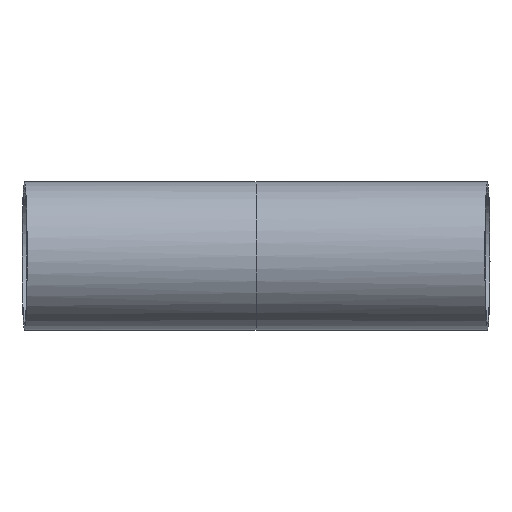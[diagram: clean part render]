
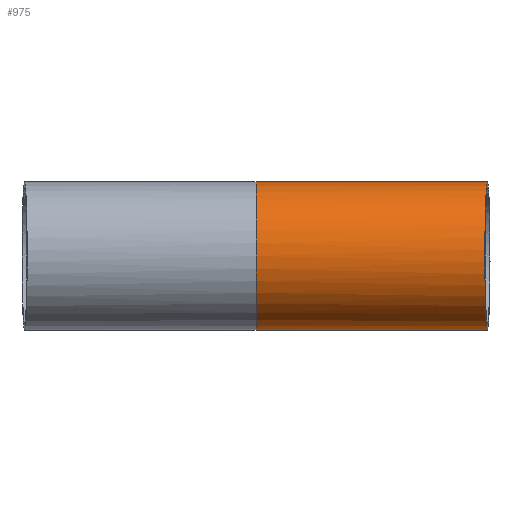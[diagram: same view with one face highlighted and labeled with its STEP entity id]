
A CAD part, front view. The second image highlights one B-rep face of the part: STEP entity #975.
In plain terms, the highlighted free-form (B-spline) face has degree [3, 1] with [4, 2] control points.
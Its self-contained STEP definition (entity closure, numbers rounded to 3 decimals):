
#12 = CARTESIAN_POINT ( 'NONE',  ( 59.299, -8.789, 17.837 ) ) ;
#17 = CARTESIAN_POINT ( 'NONE',  ( 58.904, -20.102, 6.137 ) ) ;
#22 = CARTESIAN_POINT ( 'NONE',  ( 58.957, -18.569, -9.524 ) ) ;
#29 = CARTESIAN_POINT ( 'NONE',  ( 59.36, -7.032, -18.435 ) ) ;
#41 = AXIS2_PLACEMENT_3D ( 'NONE', #63, #944, #182 ) ;
#63 = CARTESIAN_POINT ( 'NONE',  ( 0., 0., 0. ) ) ;
#66 = ORIENTED_EDGE ( 'NONE', *, *, #1135, .F. ) ;
#129 = CARTESIAN_POINT ( 'NONE',  ( 59.2, -11.61, 16.534 ) ) ;
#134 = CARTESIAN_POINT ( 'NONE',  ( 58.886, -20.617, 4.333 ) ) ;
#139 = CARTESIAN_POINT ( 'NONE',  ( 59.005, -17.217, -11.606 ) ) ;
#144 = CARTESIAN_POINT ( 'NONE',  ( 59.446, -4.585, -18.894 ) ) ;
#149 = CARTESIAN_POINT ( 'NONE',  ( 29.945, -1.046, 19.05 ) ) ;
#152 = VERTEX_POINT ( 'NONE', #1413 ) ;
#182 = DIRECTION ( 'NONE',  ( 0., -1., 0. ) ) ;
#258 = CARTESIAN_POINT ( 'NONE',  ( 59.129, -13.666, 15.123 ) ) ;
#263 = CARTESIAN_POINT ( 'NONE',  ( 58.869, -21.105, 1.255 ) ) ;
#266 = CARTESIAN_POINT ( 'NONE',  ( 59.078, -15.101, -13.903 ) ) ;
#270 = CARTESIAN_POINT ( 'NONE',  ( 59.511, -2.708, -19.05 ) ) ;
#276 = EDGE_CURVE ( 'NONE', #1127, #1576, #1408, .T. ) ;
#303 = DIRECTION ( 'NONE',  ( 0.999, -0.035, 0. ) ) ;
#383 = CARTESIAN_POINT ( 'NONE',  ( 59.079, -15.097, 13.907 ) ) ;
#388 = CARTESIAN_POINT ( 'NONE',  ( 58.87, -21.076, -1.231 ) ) ;
#394 = CARTESIAN_POINT ( 'NONE',  ( 59.128, -13.678, -15.114 ) ) ;
#465 = DIRECTION ( 'NONE',  ( -0.999, 0.035, 0. ) ) ;
#480 = VERTEX_POINT ( 'NONE', #736 ) ;
#516 = CARTESIAN_POINT ( 'NONE',  ( 59.005, -17.2, 11.63 ) ) ;
#523 = CARTESIAN_POINT ( 'NONE',  ( 58.877, -20.862, -3.101 ) ) ;
#527 = CARTESIAN_POINT ( 'NONE',  ( 59.181, -12.15, -16.174 ) ) ;
#538 = CARTESIAN_POINT ( 'NONE',  ( 59.89, -40.191, 19.05 ) ) ;
#539 =( BOUNDED_SURFACE ( )  B_SPLINE_SURFACE ( 3, 1, ( 
 ( #1441, #1050 ),
 ( #538, #1043 ),
 ( #1167, #569 ),
 ( #924, #1426 ) ),
 .UNSPECIFIED., .F., .F., .T. ) 
 B_SPLINE_SURFACE_WITH_KNOTS ( ( 4, 4 ),
 ( 2, 2 ),
 ( 0., 1. ),
 ( 0., 1. ),
 .UNSPECIFIED. ) 
 GEOMETRIC_REPRESENTATION_ITEM ( )  RATIONAL_B_SPLINE_SURFACE ( (
 ( 1., 1.),
 ( 0.333, 0.333),
 ( 0.333, 0.333),
 ( 1., 1.) ) ) 
 REPRESENTATION_ITEM ( '' )  SURFACE ( )  );
#569 = CARTESIAN_POINT ( 'NONE',  ( 0., -38.1, -19.05 ) ) ;
#598 = VECTOR ( 'NONE', #303, 1000. ) ;
#608 = B_SPLINE_CURVE_WITH_KNOTS ( 'NONE', 3,
 ( #1189, #1255, #1379, #636, #1511, #763, #12, #890, #129, #1017, #258, #1138, #383, #1261, #516, #1385, #641, #1517, #768, #17, #895, #134, #1022, #263, #1143, #388, #1266, #523, #1392, #647, #1523, #775, #22, #901, #139, #1029, #266, #1148, #394, #1272, #527, #1396, #654, #1528, #780, #29, #906, #144, #1034, #270, #1152 ),
 .UNSPECIFIED., .F., .F.,
 ( 4, 2, 2, 2, 2, 2, 2, 2, 2, 1, 2, 2, 2, 2, 2, 2, 2, 2, 2, 2, 2, 2, 2, 2, 2, 4 ),
 ( 0., 0.004, 0.006, 0.007, 0.011, 0.013, 0.015, 0.019, 0.02, 0.022, 0.024, 0.026, 0.03, 0.032, 0.033, 0.037, 0.039, 0.041, 0.045, 0.047, 0.048, 0.05, 0.052, 0.056, 0.058, 0.06 ),
 .UNSPECIFIED. ) ;
#632 = LINE ( 'NONE', #149, #598 ) ;
#636 = CARTESIAN_POINT ( 'NONE',  ( 59.382, -6.397, 18.563 ) ) ;
#641 = CARTESIAN_POINT ( 'NONE',  ( 58.957, -18.567, 9.528 ) ) ;
#647 = CARTESIAN_POINT ( 'NONE',  ( 58.902, -20.14, -6.12 ) ) ;
#654 = CARTESIAN_POINT ( 'NONE',  ( 59.238, -10.518, -17.085 ) ) ;
#707 = CARTESIAN_POINT ( 'NONE',  ( 0., 0., -19.05 ) ) ;
#736 = CARTESIAN_POINT ( 'NONE',  ( 59.533, -2.079, 19.05 ) ) ;
#763 = CARTESIAN_POINT ( 'NONE',  ( 59.32, -8.195, 18.05 ) ) ;
#768 = CARTESIAN_POINT ( 'NONE',  ( 58.918, -19.684, 7.305 ) ) ;
#775 = CARTESIAN_POINT ( 'NONE',  ( 58.937, -19.158, -8.42 ) ) ;
#780 = CARTESIAN_POINT ( 'NONE',  ( 59.319, -8.218, -18.074 ) ) ;
#879 = ORIENTED_EDGE ( 'NONE', *, *, #276, .F. ) ;
#886 = FACE_OUTER_BOUND ( 'NONE', #1301, .T. ) ;
#890 = CARTESIAN_POINT ( 'NONE',  ( 59.238, -10.518, 17.12 ) ) ;
#895 = CARTESIAN_POINT ( 'NONE',  ( 58.891, -20.464, 4.944 ) ) ;
#901 = CARTESIAN_POINT ( 'NONE',  ( 58.968, -18.25, -10.058 ) ) ;
#906 = CARTESIAN_POINT ( 'NONE',  ( 59.424, -5.204, -18.802 ) ) ;
#924 = CARTESIAN_POINT ( 'NONE',  ( 59.89, -2.091, -19.05 ) ) ;
#944 = DIRECTION ( 'NONE',  ( -1., 0., 0. ) ) ;
#956 = CIRCLE ( 'NONE', #41, 19.05 ) ;
#975 = ADVANCED_FACE ( 'NONE', ( #886 ), #539, .F. ) ;
#1017 = CARTESIAN_POINT ( 'NONE',  ( 59.146, -13.162, 15.497 ) ) ;
#1022 = CARTESIAN_POINT ( 'NONE',  ( 58.873, -20.984, 2.49 ) ) ;
#1029 = CARTESIAN_POINT ( 'NONE',  ( 59.032, -16.432, -12.569 ) ) ;
#1034 = CARTESIAN_POINT ( 'NONE',  ( 59.489, -3.335, -19.019 ) ) ;
#1043 = CARTESIAN_POINT ( 'NONE',  ( 0., -38.1, 19.05 ) ) ;
#1050 = CARTESIAN_POINT ( 'NONE',  ( 0., 0., 19.05 ) ) ;
#1125 = VECTOR ( 'NONE', #465, 1000. ) ;
#1127 = VERTEX_POINT ( 'NONE', #1302 ) ;
#1135 = EDGE_CURVE ( 'NONE', #152, #480, #632, .T. ) ;
#1138 = CARTESIAN_POINT ( 'NONE',  ( 59.095, -14.635, 14.327 ) ) ;
#1143 = CARTESIAN_POINT ( 'NONE',  ( 58.869, -21.106, -0.608 ) ) ;
#1148 = CARTESIAN_POINT ( 'NONE',  ( 59.095, -14.638, -14.324 ) ) ;
#1152 = CARTESIAN_POINT ( 'NONE',  ( 59.533, -2.079, -19.05 ) ) ;
#1167 = CARTESIAN_POINT ( 'NONE',  ( 59.89, -40.191, -19.05 ) ) ;
#1189 = CARTESIAN_POINT ( 'NONE',  ( 59.533, -2.079, 19.05 ) ) ;
#1208 = ORIENTED_EDGE ( 'NONE', *, *, #1257, .F. ) ;
#1255 = CARTESIAN_POINT ( 'NONE',  ( 59.489, -3.336, 19.05 ) ) ;
#1257 = EDGE_CURVE ( 'NONE', #480, #1127, #608, .T. ) ;
#1261 = CARTESIAN_POINT ( 'NONE',  ( 59.033, -16.413, 12.589 ) ) ;
#1266 = CARTESIAN_POINT ( 'NONE',  ( 58.874, -20.954, -2.479 ) ) ;
#1272 = CARTESIAN_POINT ( 'NONE',  ( 59.146, -13.18, -15.484 ) ) ;
#1301 = EDGE_LOOP ( 'NONE', ( #66, #1390, #879, #1208 ) ) ;
#1302 = CARTESIAN_POINT ( 'NONE',  ( 59.533, -2.079, -19.05 ) ) ;
#1379 = CARTESIAN_POINT ( 'NONE',  ( 59.446, -4.572, 18.926 ) ) ;
#1385 = CARTESIAN_POINT ( 'NONE',  ( 58.969, -18.243, 10.069 ) ) ;
#1390 = ORIENTED_EDGE ( 'NONE', *, *, #1393, .F. ) ;
#1392 = CARTESIAN_POINT ( 'NONE',  ( 58.89, -20.499, -4.933 ) ) ;
#1393 = EDGE_CURVE ( 'NONE', #1576, #152, #956, .T. ) ;
#1396 = CARTESIAN_POINT ( 'NONE',  ( 59.2, -11.618, -16.495 ) ) ;
#1408 = LINE ( 'NONE', #1468, #1125 ) ;
#1413 = CARTESIAN_POINT ( 'NONE',  ( 0., 0., 19.05 ) ) ;
#1426 = CARTESIAN_POINT ( 'NONE',  ( 0., 0., -19.05 ) ) ;
#1441 = CARTESIAN_POINT ( 'NONE',  ( 59.89, -2.091, 19.05 ) ) ;
#1468 = CARTESIAN_POINT ( 'NONE',  ( 29.945, -1.046, -19.05 ) ) ;
#1511 = CARTESIAN_POINT ( 'NONE',  ( 59.361, -7., 18.413 ) ) ;
#1517 = CARTESIAN_POINT ( 'NONE',  ( 58.937, -19.154, 8.428 ) ) ;
#1523 = CARTESIAN_POINT ( 'NONE',  ( 58.927, -19.427, -7.85 ) ) ;
#1528 = CARTESIAN_POINT ( 'NONE',  ( 59.258, -9.947, -17.356 ) ) ;
#1576 = VERTEX_POINT ( 'NONE', #707 ) ;
